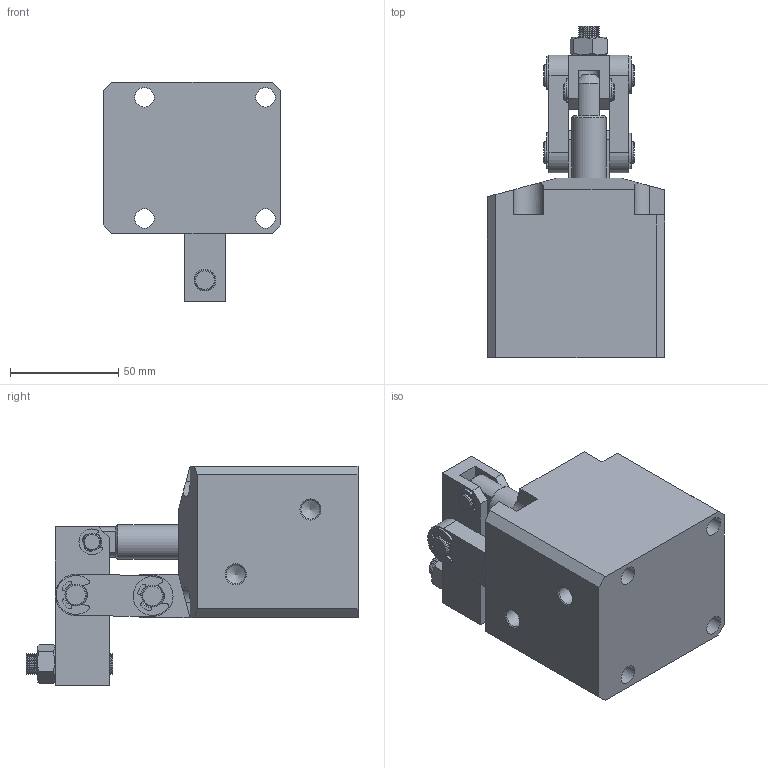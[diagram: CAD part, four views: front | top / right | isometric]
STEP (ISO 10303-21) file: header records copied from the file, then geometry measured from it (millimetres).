
FILE_DESCRIPTION(/* description */ ('STEP AP214'),/* implementation_level */ '2;1');
FILE_NAME(/* name */ 'D:\Vault_2016\Projekty\Clamptek\Hydraulic\CBLU\CBLU-45\STEP\CBLU-45L.stp',/* time_stamp */ '2021-05-06T12:41:19+02:00',/* author */ ('user'),/* organization */ (''),/* preprocessor_version */ 'ST-DEVELOPER v18.1',/* originating_system */ 'Autodesk Inventor 2021',/* authorisation */ '');
FILE_SCHEMA (('AUTOMOTIVE_DESIGN { 1 0 10303 214 3 1 1 }'));
Length unit declared in the file: millimetre
Products named in the file (11): CBLU-45L; 45L±¾Ìå_1; Áã¼þ3_4; Á¬¸Ë_1; 45Ñ¹°å_1; ¶ÌÏúÖá_1; ³¤ÏúÖá_1; Ð¡µ¯; ´ó¿Û; ÂÝÄ¸; ÂÝË¨M10_1
Assembly tree (16 placements, depth 2):
  CBLU-45L
    45L±¾Ìå_1
    Áã¼þ3_4
    Á¬¸Ë_1  x2
    45Ñ¹°å_1
    ¶ÌÏúÖá_1
    ³¤ÏúÖá_1  x2
    Ð¡µ¯  x2
    ´ó¿Û  x4
    ÂÝÄ¸
    ÂÝË¨M10_1
Bounding box: 82 x 153.5 x 101.5 mm (x, y, z)
Volume: 452046.9 mm3; surface area: 87594 mm2
Topology: 19 solids, 19 shells, 423 faces, 1051 edges, 681 vertices
Faces by surface type: cylinder 161, plane 142, cone 120
Full cylindrical faces by diameter (mm): 3 x2, 6.9 x1, 7 x1, 8 x6, 8.376 x1, 8.5 x1, 8.8 x2, 8.9 x2, 9 x6, 10 x52, 16 x2, 45 x2
Entity records: 10097 total; most frequent: DIRECTION 1843, CARTESIAN_POINT 1670, ORIENTED_EDGE 1570, EDGE_CURVE 785, AXIS2_PLACEMENT_3D 730, VERTEX_POINT 506, LINE 383, VECTOR 383
